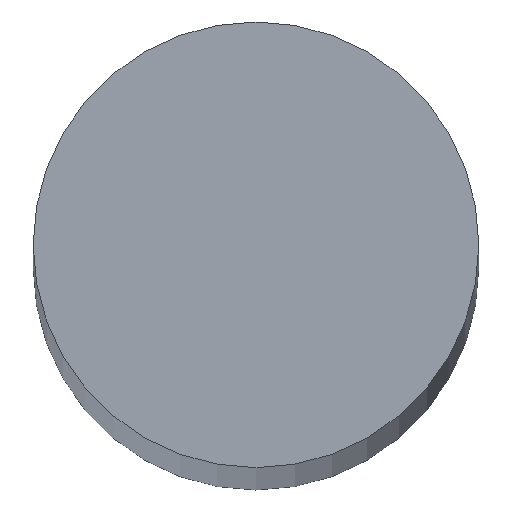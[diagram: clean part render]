
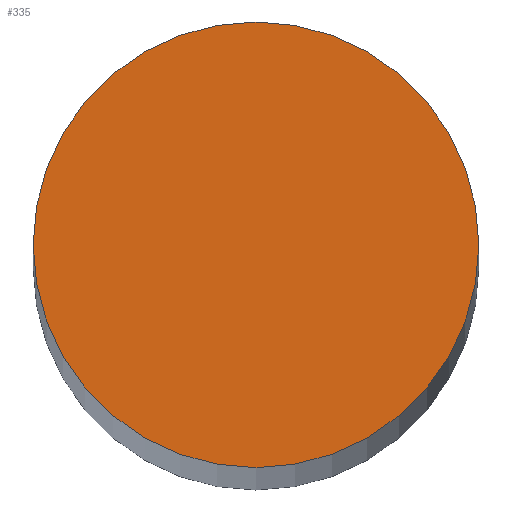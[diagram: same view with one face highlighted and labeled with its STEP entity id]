
A CAD part, top view. The second image highlights one B-rep face of the part: STEP entity #335.
In plain terms, the highlighted planar face has unit normal (0, 0, 1).
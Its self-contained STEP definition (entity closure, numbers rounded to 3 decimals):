
#24 = VERTEX_POINT('',#25);
#25 = CARTESIAN_POINT('',(4.,0.,115.));
#32 = CYLINDRICAL_SURFACE('',#33,4.);
#33 = AXIS2_PLACEMENT_3D('',#34,#35,#36);
#34 = CARTESIAN_POINT('',(0.,0.,-115.));
#35 = DIRECTION('',(-0.,-0.,-1.));
#36 = DIRECTION('',(1.,0.,0.));
#79 = EDGE_CURVE('',#24,#24,#80,.T.);
#80 = SURFACE_CURVE('',#81,(#86,#93),.PCURVE_S1.);
#81 = CIRCLE('',#82,4.);
#82 = AXIS2_PLACEMENT_3D('',#83,#84,#85);
#83 = CARTESIAN_POINT('',(0.,0.,115.));
#84 = DIRECTION('',(0.,0.,1.));
#85 = DIRECTION('',(1.,0.,0.));
#86 = PCURVE('',#32,#87);
#87 = DEFINITIONAL_REPRESENTATION('',(#88),#92);
#88 = LINE('',#89,#90);
#89 = CARTESIAN_POINT('',(-0.,-230.));
#90 = VECTOR('',#91,1.);
#91 = DIRECTION('',(-1.,0.));
#92 = ( GEOMETRIC_REPRESENTATION_CONTEXT(2) 
PARAMETRIC_REPRESENTATION_CONTEXT() REPRESENTATION_CONTEXT('2D SPACE',''
  ) );
#93 = PCURVE('',#94,#99);
#94 = PLANE('',#95);
#95 = AXIS2_PLACEMENT_3D('',#96,#97,#98);
#96 = CARTESIAN_POINT('',(0.,0.,115.));
#97 = DIRECTION('',(0.,0.,1.));
#98 = DIRECTION('',(1.,0.,-0.));
#99 = DEFINITIONAL_REPRESENTATION('',(#100),#104);
#100 = CIRCLE('',#101,4.);
#101 = AXIS2_PLACEMENT_2D('',#102,#103);
#102 = CARTESIAN_POINT('',(0.,0.));
#103 = DIRECTION('',(1.,0.));
#104 = ( GEOMETRIC_REPRESENTATION_CONTEXT(2) 
PARAMETRIC_REPRESENTATION_CONTEXT() REPRESENTATION_CONTEXT('2D SPACE',''
  ) );
#335 = ADVANCED_FACE('',(#336),#94,.T.);
#336 = FACE_BOUND('',#337,.T.);
#337 = EDGE_LOOP('',(#338));
#338 = ORIENTED_EDGE('',*,*,#79,.T.);
